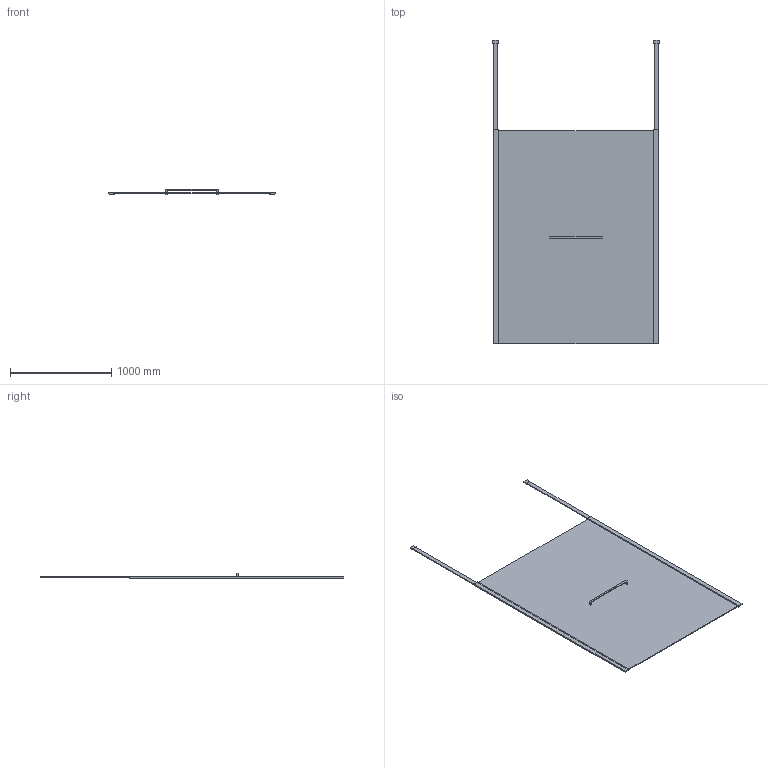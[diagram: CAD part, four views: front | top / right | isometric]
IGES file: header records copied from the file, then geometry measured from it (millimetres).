
Start section: SolidWorks IGES file using analytic representation for surfaces
Global section: file name: D:\Users\M.Szymanski\Desktop\Kabiny\PII_ALT2\03. do przegrania\PII_ALTIIa_160_wspornik pionowy_K3D.IGS; native system: SolidWorks 2011; preprocessor: SolidWorks 2011; author: M.Szymanski; date: 181003.105946; units: millimetre
Bounding box: 1639.8 x 3000 x 54.5 mm (x, y, z)
Surface area: 7421999.2 mm2 (no closed solid volume)
Topology: 0 solids, 0 shells, 61 faces, 396 edges, 528 vertices
Faces by surface type: bspline 61
